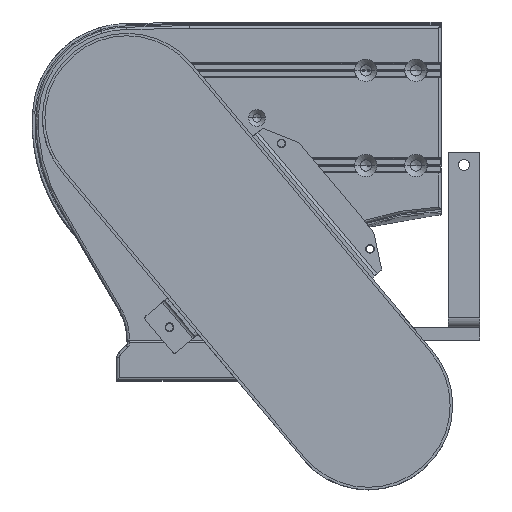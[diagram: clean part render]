
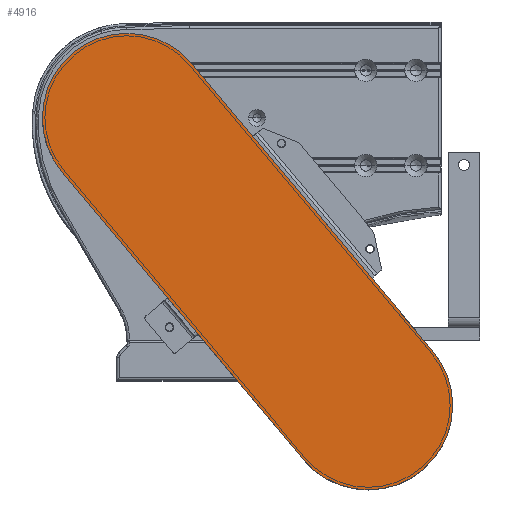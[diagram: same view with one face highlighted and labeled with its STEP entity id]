
A CAD part, top view. The second image highlights one B-rep face of the part: STEP entity #4916.
In plain terms, the highlighted planar face has unit normal (0, 0, 1).
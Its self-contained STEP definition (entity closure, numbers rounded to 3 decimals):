
#135 = CARTESIAN_POINT ( 'NONE',  ( 141.127, -273.202, 320. ) ) ;
#1361 = ORIENTED_EDGE ( 'NONE', *, *, #4420, .T. ) ;
#1899 = DIRECTION ( 'NONE',  ( 0.643, -0.766, 0. ) ) ;
#2328 = CIRCLE ( 'NONE', #5820, 67.5 ) ;
#2859 = DIRECTION ( 'NONE',  ( 1., 0., 0. ) ) ;
#3284 = VERTEX_POINT ( 'NONE', #24464 ) ;
#3758 = DIRECTION ( 'NONE',  ( 1., 0., 0. ) ) ;
#3834 = VERTEX_POINT ( 'NONE', #135 ) ;
#4420 = EDGE_CURVE ( 'NONE', #25574, #20491, #26145, .T. ) ;
#4916 = ADVANCED_FACE ( 'NONE', ( #4918 ), #29536, .T. ) ;
#4918 = FACE_OUTER_BOUND ( 'NONE', #21607, .T. ) ;
#5201 = LINE ( 'NONE', #13740, #11767 ) ;
#5598 = DIRECTION ( 'NONE',  ( 0., 0., 1. ) ) ;
#5615 = EDGE_CURVE ( 'NONE', #20491, #10460, #29355, .T. ) ;
#5805 = AXIS2_PLACEMENT_3D ( 'NONE', #26893, #20168, #10543 ) ;
#5820 = AXIS2_PLACEMENT_3D ( 'NONE', #19197, #5598, #7860 ) ;
#5857 = CIRCLE ( 'NONE', #26581, 67.5 ) ;
#7794 = EDGE_CURVE ( 'NONE', #3284, #3834, #5201, .T. ) ;
#7860 = DIRECTION ( 'NONE',  ( 1., 0., 0. ) ) ;
#10460 = VERTEX_POINT ( 'NONE', #19032 ) ;
#10543 = DIRECTION ( 'NONE',  ( 1., 0., 0. ) ) ;
#11767 = VECTOR ( 'NONE', #1899, 1000. ) ;
#12936 = DIRECTION ( 'NONE',  ( -0.643, 0.766, 0. ) ) ;
#13740 = CARTESIAN_POINT ( 'NONE',  ( -51.708, -43.388, 320. ) ) ;
#13993 = EDGE_CURVE ( 'NONE', #3834, #25574, #5857, .T. ) ;
#15275 = DIRECTION ( 'NONE',  ( 0., 0., 1. ) ) ;
#16766 = CARTESIAN_POINT ( 'NONE',  ( 192.835, -229.814, 320. ) ) ;
#16919 = ORIENTED_EDGE ( 'NONE', *, *, #13993, .T. ) ;
#18952 = DIRECTION ( 'NONE',  ( 0., 0., 1. ) ) ;
#19032 = CARTESIAN_POINT ( 'NONE',  ( -67.5, 0., 320. ) ) ;
#19197 = CARTESIAN_POINT ( 'NONE',  ( 0., 0., 320. ) ) ;
#19693 = EDGE_CURVE ( 'NONE', #10460, #3284, #2328, .T. ) ;
#19935 = CARTESIAN_POINT ( 'NONE',  ( 51.708, 43.388, 320. ) ) ;
#20144 = ORIENTED_EDGE ( 'NONE', *, *, #19693, .T. ) ;
#20168 = DIRECTION ( 'NONE',  ( 0., 0., 1. ) ) ;
#20491 = VERTEX_POINT ( 'NONE', #27819 ) ;
#21607 = EDGE_LOOP ( 'NONE', ( #24339, #20144, #25131, #16919, #1361 ) ) ;
#22650 = CARTESIAN_POINT ( 'NONE',  ( 244.543, -186.426, 320. ) ) ;
#24339 = ORIENTED_EDGE ( 'NONE', *, *, #5615, .T. ) ;
#24464 = CARTESIAN_POINT ( 'NONE',  ( -51.708, -43.388, 320. ) ) ;
#24948 = CARTESIAN_POINT ( 'NONE',  ( 0., 0., 320. ) ) ;
#25131 = ORIENTED_EDGE ( 'NONE', *, *, #7794, .T. ) ;
#25574 = VERTEX_POINT ( 'NONE', #22650 ) ;
#25970 = AXIS2_PLACEMENT_3D ( 'NONE', #24948, #15275, #3758 ) ;
#26145 = LINE ( 'NONE', #19935, #26509 ) ;
#26509 = VECTOR ( 'NONE', #12936, 1000. ) ;
#26581 = AXIS2_PLACEMENT_3D ( 'NONE', #16766, #18952, #2859 ) ;
#26893 = CARTESIAN_POINT ( 'NONE',  ( 0., 0., 320. ) ) ;
#27819 = CARTESIAN_POINT ( 'NONE',  ( 51.708, 43.388, 320. ) ) ;
#29355 = CIRCLE ( 'NONE', #5805, 67.5 ) ;
#29536 = PLANE ( 'NONE',  #25970 ) ;
